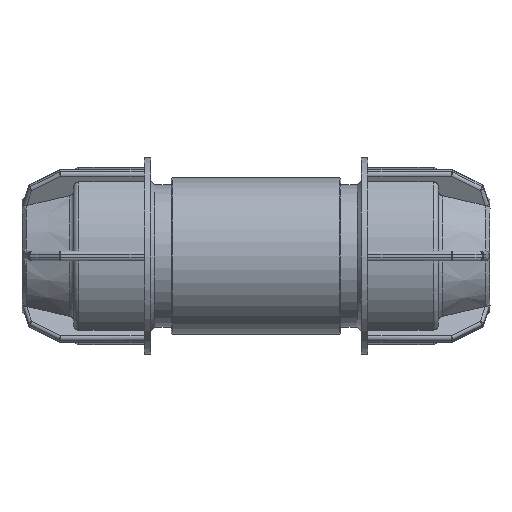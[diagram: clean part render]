
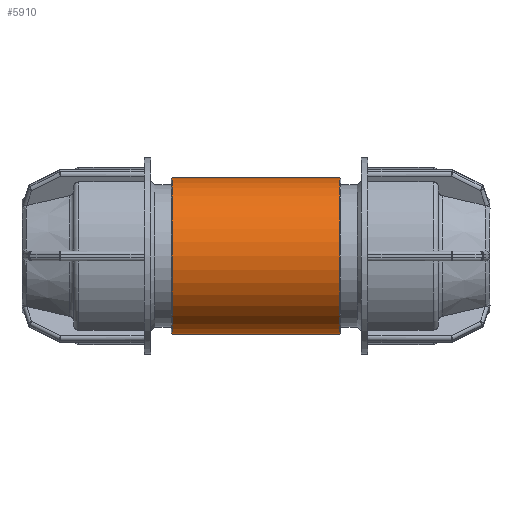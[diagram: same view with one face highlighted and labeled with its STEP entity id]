
A CAD part, front view. The second image highlights one B-rep face of the part: STEP entity #5910.
In plain terms, the highlighted cylindrical face has radius 17.875 mm (diameter 35.75 mm), a full revolution.
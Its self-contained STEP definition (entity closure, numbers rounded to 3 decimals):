
#837=B_SPLINE_CURVE_WITH_KNOTS('',3,(#8988,#8989,#8990,#8991,#8992,#8993,
#8994,#8995,#8996,#8997,#8998,#8999,#9000,#9001,#9002,#9003,#9004,#9005,
#9006,#9007,#9008,#9009,#9010,#9011,#9012,#9013,#9014,#9015,#9016,#9017,
#9018,#9019,#9020,#9021,#9022,#9023,#9024,#9025,#9026,#9027,#9028,#9029),
 .UNSPECIFIED.,.T.,.F.,(4,2,2,2,2,2,2,2,2,2,2,2,2,2,2,2,2,2,2,2,4),(0.,
0.212,0.424,0.847,1.268,
1.689,2.109,2.53,2.953,3.165,
3.377,3.589,3.801,4.224,4.645,
5.066,5.486,5.907,6.331,6.542,
6.754),.UNSPECIFIED.);
#1019=CYLINDRICAL_SURFACE('',#6329,17.875);
#1339=FACE_BOUND('',#1800,.T.);
#1340=FACE_BOUND('',#1801,.T.);
#1383=FACE_OUTER_BOUND('',#1799,.T.);
#1799=EDGE_LOOP('',(#4064));
#1800=EDGE_LOOP('',(#4065));
#1801=EDGE_LOOP('',(#4066));
#2254=CIRCLE('',#6326,17.875);
#2256=CIRCLE('',#6330,17.875);
#2603=VERTEX_POINT('',#8979);
#2605=VERTEX_POINT('',#8985);
#2606=VERTEX_POINT('',#8987);
#3146=EDGE_CURVE('',#2603,#2603,#2254,.T.);
#3148=EDGE_CURVE('',#2605,#2605,#2256,.T.);
#3149=EDGE_CURVE('',#2606,#2606,#837,.T.);
#4064=ORIENTED_EDGE('',*,*,#3148,.F.);
#4065=ORIENTED_EDGE('',*,*,#3149,.F.);
#4066=ORIENTED_EDGE('',*,*,#3146,.F.);
#5910=ADVANCED_FACE('',(#1383,#1339,#1340),#1019,.T.);
#6326=AXIS2_PLACEMENT_3D('',#8980,#7093,#7094);
#6329=AXIS2_PLACEMENT_3D('',#8984,#7099,#7100);
#6330=AXIS2_PLACEMENT_3D('',#8986,#7101,#7102);
#7093=DIRECTION('center_axis',(-1.,0.,0.));
#7094=DIRECTION('ref_axis',(0.,-1.,0.));
#7099=DIRECTION('center_axis',(1.,0.,0.));
#7100=DIRECTION('ref_axis',(0.,1.,0.));
#7101=DIRECTION('center_axis',(1.,0.,0.));
#7102=DIRECTION('ref_axis',(0.,-1.,0.));
#8979=CARTESIAN_POINT('',(-19.15,17.875,0.));
#8980=CARTESIAN_POINT('Origin',(-19.15,0.,0.));
#8984=CARTESIAN_POINT('Origin',(9.7,0.,0.));
#8985=CARTESIAN_POINT('',(19.15,17.875,0.));
#8986=CARTESIAN_POINT('Origin',(19.15,0.,0.));
#8987=CARTESIAN_POINT('',(0.,14.203,-10.853));
#8988=CARTESIAN_POINT('Ctrl Pts',(0.,14.203,
10.853));
#8989=CARTESIAN_POINT('Ctrl Pts',(0.706,14.203,10.853));
#8990=CARTESIAN_POINT('Ctrl Pts',(1.427,14.258,10.783));
#8991=CARTESIAN_POINT('Ctrl Pts',(2.845,14.468,10.498));
#8992=CARTESIAN_POINT('Ctrl Pts',(3.542,14.625,10.284));
#8993=CARTESIAN_POINT('Ctrl Pts',(5.534,15.19,9.446));
#8994=CARTESIAN_POINT('Ctrl Pts',(6.728,15.694,8.62));
#8995=CARTESIAN_POINT('Ctrl Pts',(8.614,16.591,6.734));
#8996=CARTESIAN_POINT('Ctrl Pts',(9.444,17.051,5.538));
#8997=CARTESIAN_POINT('Ctrl Pts',(10.565,17.696,2.874));
#8998=CARTESIAN_POINT('Ctrl Pts',(10.853,17.875,1.402));
#8999=CARTESIAN_POINT('Ctrl Pts',(10.853,17.875,-1.402));
#9000=CARTESIAN_POINT('Ctrl Pts',(10.565,17.696,-2.874));
#9001=CARTESIAN_POINT('Ctrl Pts',(9.444,17.051,-5.538));
#9002=CARTESIAN_POINT('Ctrl Pts',(8.614,16.591,-6.734));
#9003=CARTESIAN_POINT('Ctrl Pts',(6.728,15.694,-8.62));
#9004=CARTESIAN_POINT('Ctrl Pts',(5.534,15.19,-9.446));
#9005=CARTESIAN_POINT('Ctrl Pts',(3.542,14.625,-10.284));
#9006=CARTESIAN_POINT('Ctrl Pts',(2.845,14.468,-10.498));
#9007=CARTESIAN_POINT('Ctrl Pts',(1.427,14.258,-10.783));
#9008=CARTESIAN_POINT('Ctrl Pts',(0.706,14.203,-10.853));
#9009=CARTESIAN_POINT('Ctrl Pts',(-0.706,14.203,-10.853));
#9010=CARTESIAN_POINT('Ctrl Pts',(-1.427,14.258,-10.783));
#9011=CARTESIAN_POINT('Ctrl Pts',(-2.845,14.468,-10.498));
#9012=CARTESIAN_POINT('Ctrl Pts',(-3.542,14.625,-10.284));
#9013=CARTESIAN_POINT('Ctrl Pts',(-5.534,15.19,-9.446));
#9014=CARTESIAN_POINT('Ctrl Pts',(-6.728,15.694,-8.62));
#9015=CARTESIAN_POINT('Ctrl Pts',(-8.614,16.591,-6.734));
#9016=CARTESIAN_POINT('Ctrl Pts',(-9.444,17.051,-5.538));
#9017=CARTESIAN_POINT('Ctrl Pts',(-10.565,17.696,-2.874));
#9018=CARTESIAN_POINT('Ctrl Pts',(-10.853,17.875,-1.402));
#9019=CARTESIAN_POINT('Ctrl Pts',(-10.853,17.875,1.402));
#9020=CARTESIAN_POINT('Ctrl Pts',(-10.565,17.696,2.874));
#9021=CARTESIAN_POINT('Ctrl Pts',(-9.444,17.051,5.538));
#9022=CARTESIAN_POINT('Ctrl Pts',(-8.614,16.591,6.734));
#9023=CARTESIAN_POINT('Ctrl Pts',(-6.728,15.694,8.62));
#9024=CARTESIAN_POINT('Ctrl Pts',(-5.534,15.19,9.446));
#9025=CARTESIAN_POINT('Ctrl Pts',(-3.542,14.625,10.284));
#9026=CARTESIAN_POINT('Ctrl Pts',(-2.845,14.468,10.498));
#9027=CARTESIAN_POINT('Ctrl Pts',(-1.427,14.258,10.783));
#9028=CARTESIAN_POINT('Ctrl Pts',(-0.706,14.203,10.853));
#9029=CARTESIAN_POINT('Ctrl Pts',(0.,14.203,
10.853));
